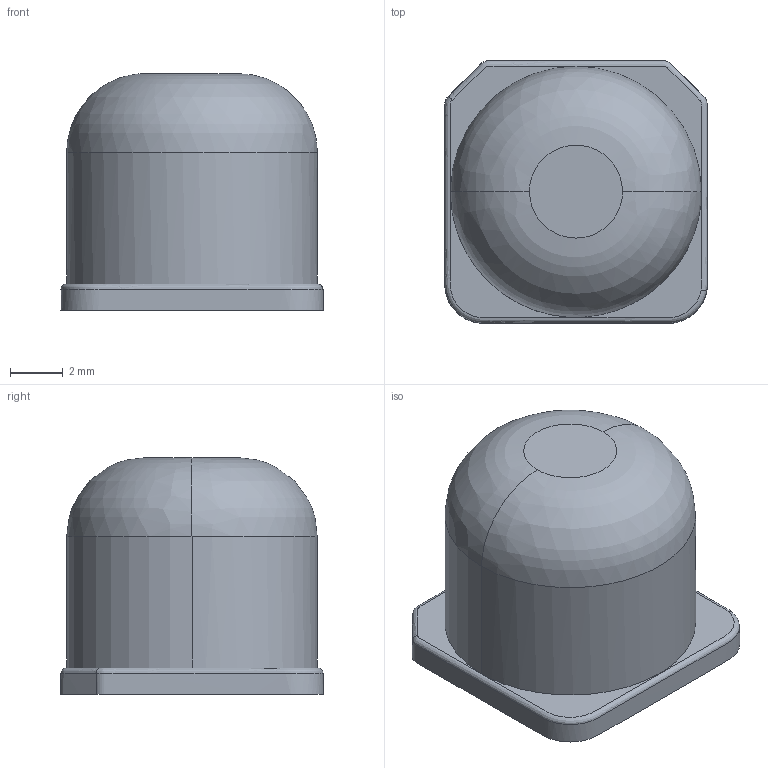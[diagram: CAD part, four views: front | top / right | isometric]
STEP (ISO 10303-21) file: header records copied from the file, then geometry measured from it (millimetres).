
FILE_DESCRIPTION(/* description */ (''),/* implementation_level */ '2;1');
FILE_NAME(/* name */ '240701_AL-30M-275(RefarenceModel）)',/* time_stamp */ '2024-07-01T12:01:20+09:00',/* author */ (''),/* organization */ (''),/* preprocessor_version */ 'ST-DEVELOPER v19.2',/* originating_system */ 'Rhino 8.4',/* authorisation */ '');
FILE_SCHEMA (('AP242_MANAGED_MODEL_BASED_3D_ENGINEERING_MIM_LF { 1 0 10303 442 3 1 4 }'));
Length unit declared in the file: millimetre
Products named in the file (1): Document
Bounding box: 10 x 10 x 9 mm (x, y, z)
Volume: 607 mm3; surface area: 434.9 mm2
Topology: 1 solids, 1 shells, 16 faces, 31 edges, 19 vertices
Faces by surface type: bspline 10, plane 4, cylinder 2
Entity records: 2119 total; most frequent: CARTESIAN_POINT 1882, ORIENTED_EDGE 62, EDGE_CURVE 31, DIRECTION 22, VERTEX_POINT 19, EDGE_LOOP 18, ADVANCED_FACE 16, FACE_OUTER_BOUND 16
